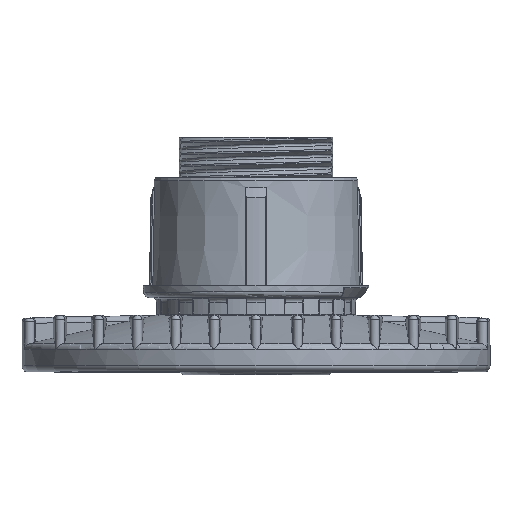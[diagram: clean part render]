
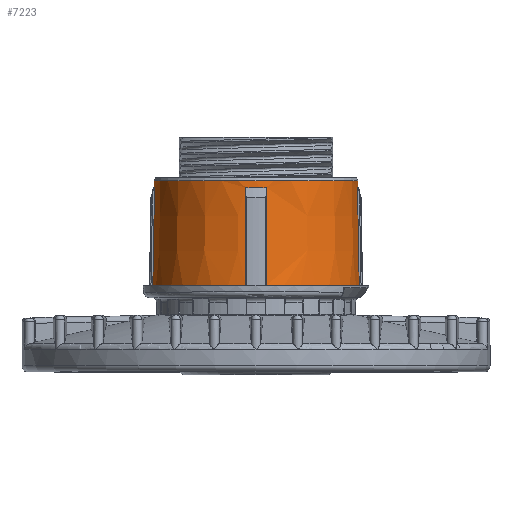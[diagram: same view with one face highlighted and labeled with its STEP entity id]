
A CAD part, top view. The second image highlights one B-rep face of the part: STEP entity #7223.
In plain terms, the highlighted conical face has half-angle 1 degrees and reference radius 17.306 mm.
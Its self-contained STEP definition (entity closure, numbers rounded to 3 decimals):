
#21=CARTESIAN_POINT('',(0.,16.5,0.));
#22=DIRECTION('',(0.,-1.,0.));
#23=DIRECTION('',(0.995,0.,-0.102));
#24=AXIS2_PLACEMENT_3D('',#21,#22,#23);
#2319=CARTESIAN_POINT('',(0.,17.67,0.));
#2320=DIRECTION('',(0.,1.,0.));
#2321=DIRECTION('',(1.,0.,0.));
#2322=AXIS2_PLACEMENT_3D('',#2319,#2320,#2321);
#2333=DIRECTION('',(-0.017,1.,0.));
#2334=VECTOR('',#2333,1.17);
#2335=CARTESIAN_POINT('',(17.172,16.5,0.));
#2336=LINE('',#2335,#2334);
#2337=DIRECTION('',(0.017,1.,0.));
#2338=VECTOR('',#2337,1.17);
#2339=CARTESIAN_POINT('',(-17.172,16.5,0.));
#2340=LINE('',#2339,#2338);
#2341=CARTESIAN_POINT('',(0.,0.,0.));
#2342=DIRECTION('',(0.,1.,0.));
#2343=DIRECTION('',(-0.1,0.,-0.995));
#2344=AXIS2_PLACEMENT_3D('',#2341,#2342,#2343);
#2346=CARTESIAN_POINT('',(0.,0.,0.));
#2347=DIRECTION('',(0.,1.,0.));
#2348=DIRECTION('',(0.995,0.,-0.1));
#2349=AXIS2_PLACEMENT_3D('',#2346,#2347,#2348);
#2355=CARTESIAN_POINT('',(0.,16.5,0.));
#2356=DIRECTION('',(0.,-1.,0.));
#2357=DIRECTION('',(-1.,0.,0.));
#2358=AXIS2_PLACEMENT_3D('',#2355,#2356,#2357);
#2375=CARTESIAN_POINT('',(-17.372,0.,-1.75));
#2376=CARTESIAN_POINT('',(-17.34,1.838,-1.75));
#2377=CARTESIAN_POINT('',(-17.275,5.511,-1.75));
#2378=CARTESIAN_POINT('',(-17.179,11.011,-1.75));
#2379=CARTESIAN_POINT('',(-17.115,14.671,-1.75));
#2380=CARTESIAN_POINT('',(-17.083,16.5,-1.75));
#2476=CARTESIAN_POINT('',(-1.75,16.5,-17.083));
#2477=CARTESIAN_POINT('',(-1.75,14.671,-17.115));
#2478=CARTESIAN_POINT('',(-1.75,11.011,-17.179));
#2479=CARTESIAN_POINT('',(-1.75,5.511,-17.275));
#2480=CARTESIAN_POINT('',(-1.75,1.838,-17.34));
#2481=CARTESIAN_POINT('',(-1.75,0.,-17.372));
#2492=CARTESIAN_POINT('',(0.,16.5,0.));
#2493=DIRECTION('',(0.,-1.,0.));
#2494=DIRECTION('',(-0.102,0.,-0.995));
#2495=AXIS2_PLACEMENT_3D('',#2492,#2493,#2494);
#2507=CARTESIAN_POINT('',(1.75,0.,-17.372));
#2508=CARTESIAN_POINT('',(1.75,1.838,-17.34));
#2509=CARTESIAN_POINT('',(1.75,5.511,-17.275));
#2510=CARTESIAN_POINT('',(1.75,11.011,-17.179));
#2511=CARTESIAN_POINT('',(1.75,14.671,-17.115));
#2512=CARTESIAN_POINT('',(1.75,16.5,-17.083));
#2595=CARTESIAN_POINT('',(17.083,16.5,-1.75));
#2596=CARTESIAN_POINT('',(17.115,14.671,-1.75));
#2597=CARTESIAN_POINT('',(17.179,11.011,-1.75));
#2598=CARTESIAN_POINT('',(17.275,5.511,-1.75));
#2599=CARTESIAN_POINT('',(17.34,1.838,-1.75));
#2600=CARTESIAN_POINT('',(17.372,0.,-1.75));
#3658=CARTESIAN_POINT('',(17.152,17.67,0.));
#3659=CARTESIAN_POINT('',(-17.152,17.67,0.));
#3660=VERTEX_POINT('',#3658);
#3661=VERTEX_POINT('',#3659);
#3669=CARTESIAN_POINT('',(-17.172,16.5,0.));
#3671=VERTEX_POINT('',#3669);
#3673=CARTESIAN_POINT('',(-17.083,16.5,-1.75));
#3674=VERTEX_POINT('',#3673);
#3675=VERTEX_POINT('',#2375);
#3676=CARTESIAN_POINT('',(-1.75,16.5,-17.083));
#3677=CARTESIAN_POINT('',(1.75,16.5,-17.083));
#3678=VERTEX_POINT('',#3676);
#3679=VERTEX_POINT('',#3677);
#3680=VERTEX_POINT('',#2507);
#3681=VERTEX_POINT('',#2481);
#3682=CARTESIAN_POINT('',(17.172,16.5,0.));
#3684=VERTEX_POINT('',#3682);
#3687=CARTESIAN_POINT('',(17.083,16.5,-1.75));
#3688=VERTEX_POINT('',#3687);
#3689=VERTEX_POINT('',#2600);
#7198=CARTESIAN_POINT('',(0.,8.835,0.));
#7199=DIRECTION('',(0.,-1.,0.));
#7200=DIRECTION('',(-1.,0.,0.));
#7201=AXIS2_PLACEMENT_3D('',#7198,#7199,#7200);
#7202=CONICAL_SURFACE('',#7201,17.306,1.);
#7203=ORIENTED_EDGE('',*,*,#4221,.T.);
#7204=ORIENTED_EDGE('',*,*,#4206,.T.);
#7205=ORIENTED_EDGE('',*,*,#7179,.T.);
#7206=ORIENTED_EDGE('',*,*,#4202,.F.);
#7208=ORIENTED_EDGE('',*,*,#7207,.T.);
#7210=ORIENTED_EDGE('',*,*,#7209,.F.);
#7211=ORIENTED_EDGE('',*,*,#4473,.F.);
#7213=ORIENTED_EDGE('',*,*,#7212,.F.);
#7215=ORIENTED_EDGE('',*,*,#7214,.T.);
#7217=ORIENTED_EDGE('',*,*,#7216,.F.);
#7218=ORIENTED_EDGE('',*,*,#4461,.F.);
#7220=ORIENTED_EDGE('',*,*,#7219,.F.);
#7221=EDGE_LOOP('',(#7203,#7204,#7205,#7206,#7208,#7210,#7211,#7213,#7215,#7217,
#7218,#7220));
#7222=FACE_OUTER_BOUND('',#7221,.F.);
#7223=ADVANCED_FACE('',(#7222),#7202,.T.);
#25=CIRCLE('',#24,17.172);
#2323=CIRCLE('',#2322,17.152);
#2345=CIRCLE('',#2344,17.46);
#2350=CIRCLE('',#2349,17.46);
#2359=CIRCLE('',#2358,17.172);
#2381=B_SPLINE_CURVE_WITH_KNOTS('',3,(#2375,#2376,#2377,#2378,#2379,#2380),
.UNSPECIFIED.,.F.,.F.,(4,1,1,4),(0.,0.333,0.667,1.),
.UNSPECIFIED.);
#2482=B_SPLINE_CURVE_WITH_KNOTS('',3,(#2476,#2477,#2478,#2479,#2480,#2481),
.UNSPECIFIED.,.F.,.F.,(4,1,1,4),(0.,0.333,0.667,1.),
.UNSPECIFIED.);
#2496=CIRCLE('',#2495,17.172);
#2513=B_SPLINE_CURVE_WITH_KNOTS('',3,(#2507,#2508,#2509,#2510,#2511,#2512),
.UNSPECIFIED.,.F.,.F.,(4,1,1,4),(0.,0.333,0.667,1.),
.UNSPECIFIED.);
#2601=B_SPLINE_CURVE_WITH_KNOTS('',3,(#2595,#2596,#2597,#2598,#2599,#2600),
.UNSPECIFIED.,.F.,.F.,(4,1,1,4),(0.,0.333,0.667,1.),
.UNSPECIFIED.);
#4202=EDGE_CURVE('',#3671,#3661,#2340,.T.);
#4206=EDGE_CURVE('',#3684,#3660,#2336,.T.);
#4221=EDGE_CURVE('',#3688,#3684,#25,.T.);
#4461=EDGE_CURVE('',#3689,#3680,#2350,.T.);
#4473=EDGE_CURVE('',#3681,#3675,#2345,.T.);
#7179=EDGE_CURVE('',#3660,#3661,#2323,.T.);
#7207=EDGE_CURVE('',#3671,#3674,#2359,.T.);
#7209=EDGE_CURVE('',#3675,#3674,#2381,.T.);
#7212=EDGE_CURVE('',#3678,#3681,#2482,.T.);
#7214=EDGE_CURVE('',#3678,#3679,#2496,.T.);
#7216=EDGE_CURVE('',#3680,#3679,#2513,.T.);
#7219=EDGE_CURVE('',#3688,#3689,#2601,.T.);
